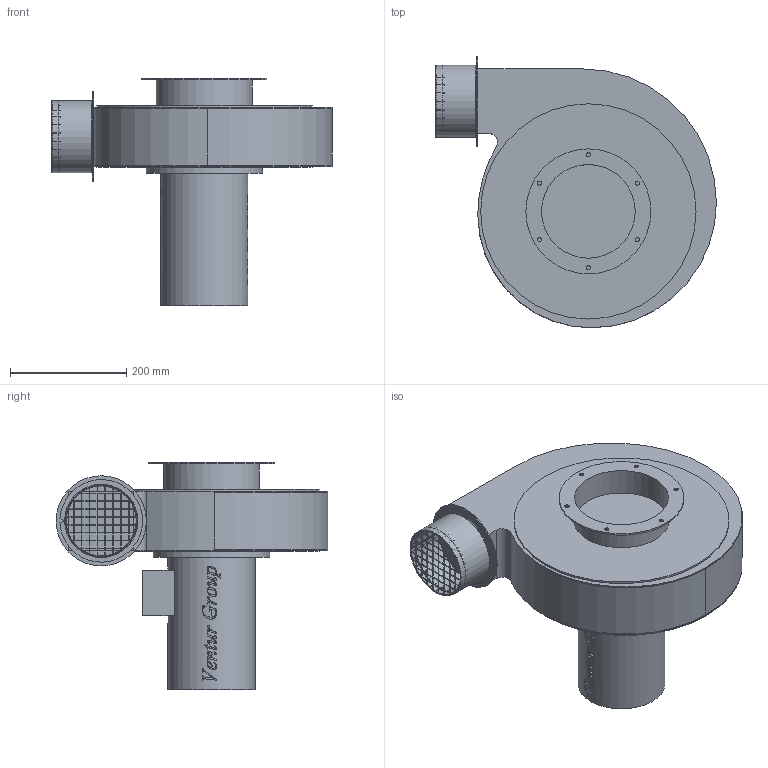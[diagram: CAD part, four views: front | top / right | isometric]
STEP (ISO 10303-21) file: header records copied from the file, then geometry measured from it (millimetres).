
FILE_DESCRIPTION(/* description */ (''),/* implementation_level */ '2;1');
FILE_NAME(/* name */ 'E:\Mariusz\Modele uproszczone\GMT-K\GMT-K_130 RD90 42552325\GMT-K_130 RD90 42552325.stp',/* time_stamp */ '2018-07-12T09:47:15+02:00',/* author */ ('M.Janczarek'),/* organization */ (''),/* preprocessor_version */ 'ST-DEVELOPER v16.5',/* originating_system */ 'Autodesk Inventor 2017',/* authorisation */ '');
FILE_SCHEMA (('AUTOMOTIVE_DESIGN { 1 0 10303 214 3 1 1 }'));
Length unit declared in the file: millimetre
Products named in the file (1): GMT-K_130_110 42552325
Bounding box: 482.5 x 467 x 391.5 mm (x, y, z)
Volume: 20671380.7 mm3; surface area: 749780 mm2
Topology: 1 solids, 1 shells, 953 faces, 2834 edges, 1858 vertices
Faces by surface type: plane 413, bspline 371, cylinder 165, torus 4
Full cylindrical faces by diameter (mm): 1 x25, 7.1 x6, 149.9 x1, 155 x1, 161 x1, 165 x1, 200 x1, 215 x1, 370 x2
Entity records: 38234 total; most frequent: CARTESIAN_POINT 14507, ORIENTED_EDGE 5370, DIRECTION 3710, EDGE_CURVE 2685, VERTEX_POINT 1790, LINE 1536, VECTOR 1536, EDGE_LOOP 1213
